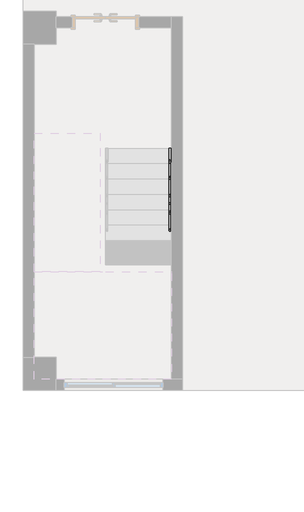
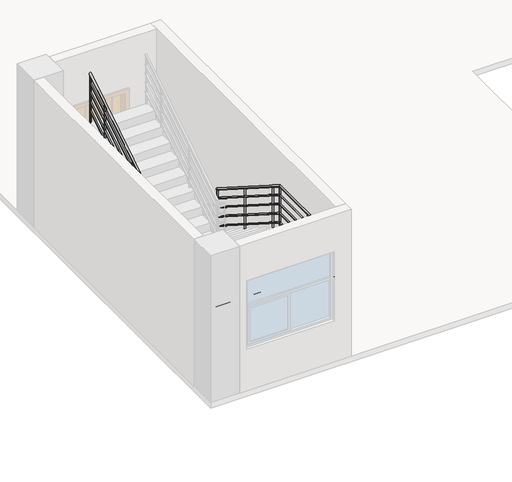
# One storey, part 2 of 4: 1 railing.
"""IFC4 building model written with IfcOpenShell, lengths in millimetres."""

from ifc_helpers import new_model, si_unit, point, frame, frame_2d, origin, place, context, project, spatial, circle_curve, ellipse_curve, trimmed, segment, composite_curve, outline, extrude, element, save
from ifc_brep_helpers import plane_surface, cylinder_surface, advanced_brep

model = new_model("IFC4")

# Units and contexts
model_context = context("Model", 3, world=origin())
ifc_project = project(units=[si_unit("LENGTHUNIT", "METRE", prefix="MILLI")], contexts=[model_context])

# Site, building, storey
site = spatial("IfcSite", under=ifc_project)
building = spatial("IfcBuilding", under=site)
storey = spatial("IfcBuildingStorey", under=building, Name="标高 1", Elevation=0.0)

# Railing
placement = place(None, origin())
element("IfcRailing", 1, ObjectType="900mm 圆管", at=placement, inside=storey, context=model_context, shape_type="SolidModel", body=[
    advanced_brep(
    [(-10027.1675258, -4336.6725016, 1054.0870689), (-9987.1675258, -4336.6725016, 1054.0870689), (-10027.1675258, -6582.485368, 2480.0), (-9987.1675258, -6582.485368, 2480.0), (-10027.1675258, -8491.2725016, 2480.0), (-9987.1675258, -8531.2725016, 2480.0), (-12436.3675258, -8491.2725016, 2480.0), (-12476.3675258, -8531.2725016, 2480.0), (-12436.3675258, -6850.8596352, 2480.0), (-12476.3675258, -6850.8596352, 2480.0), (-12436.3675258, -6565.9523389, 2660.8935215), (-12476.3675258, -6565.9523389, 2660.8935215), (-12436.3675258, -4056.6725016, 4254.0870689), (-12476.3675258, -4056.6725016, 4254.0870689)],
    [
        (0, 1, ellipse_curve(frame((-10007.1675258, -4336.6725016, 1054.0870689), z_axis=(0.0, 1.0, 0.0), x_axis=(0.0, 0.0, -1.0)), 23.6907088, 20.0)),
        (1, 0, ellipse_curve(frame((-10007.1675258, -4336.6725016, 1054.0870689), z_axis=(0.0, 1.0, 0.0), x_axis=(0.0, 0.0, -1.0)), 23.6907088, 20.0)),
        (0, 2),
        (2, 3, ellipse_curve(frame((-10007.1675258, -6582.485368, 2480.0), z_axis=(0.0, 0.9602637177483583, -0.2790942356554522), x_axis=(0.0, -0.27909423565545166, -0.9602637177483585)), 20.8276119, 20.0)),
        (3, 1),
        (3, 2, ellipse_curve(frame((-10007.1675258, -6582.485368, 2480.0), z_axis=(0.0, 0.9602637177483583, -0.2790942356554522), x_axis=(0.0, -0.27909423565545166, -0.9602637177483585)), 20.8276119, 20.0)),
        (2, 4),
        (4, 5, ellipse_curve(frame((-10007.1675258, -8511.2725016, 2480.0), z_axis=(0.7071067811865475, 0.7071067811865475, 0.0), x_axis=(-0.7071067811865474, 0.7071067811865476, 0.0)), 28.2842712, 20.0)),
        (5, 3),
        (5, 4, ellipse_curve(frame((-10007.1675258, -8511.2725016, 2480.0), z_axis=(0.7071067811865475, 0.7071067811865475, 0.0), x_axis=(-0.7071067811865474, 0.7071067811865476, 0.0)), 28.2842712, 20.0)),
        (4, 6),
        (6, 7, ellipse_curve(frame((-12456.3675258, -8511.2725016, 2480.0), z_axis=(0.7071067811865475, -0.7071067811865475, 0.0), x_axis=(0.7071067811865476, 0.7071067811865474, 0.0)), 28.2842712, 20.0)),
        (7, 5),
        (7, 6, ellipse_curve(frame((-12456.3675258, -8511.2725016, 2480.0), z_axis=(0.7071067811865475, -0.7071067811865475, 0.0), x_axis=(0.7071067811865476, 0.7071067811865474, 0.0)), 28.2842712, 20.0)),
        (6, 8),
        (8, 9, ellipse_curve(frame((-12456.3675258, -6850.8596352, 2480.0), z_axis=(0.0, -0.9602637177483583, -0.2790942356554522), x_axis=(0.0, -0.2790942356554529, 0.9602637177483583)), 20.8276119, 20.0)),
        (9, 7),
        (9, 8, ellipse_curve(frame((-12456.3675258, -6850.8596352, 2480.0), z_axis=(0.0, -0.9602637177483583, -0.2790942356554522), x_axis=(0.0, -0.2790942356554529, 0.9602637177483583)), 20.8276119, 20.0)),
        (8, 10),
        (10, 11, circle_curve(frame((-12456.3675258, -6565.9523389, 2660.8935215), z_axis=(0.0, -0.8442128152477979, -0.536008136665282), x_axis=(-1.0, 0.0, 0.0)), 20.0)),
        (11, 9),
        (11, 10, circle_curve(frame((-12456.3675258, -6565.9523389, 2660.8935215), z_axis=(0.0, -0.8442128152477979, -0.536008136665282), x_axis=(-1.0, 0.0, 0.0)), 20.0)),
        (12, 13, ellipse_curve(frame((-12456.3675258, -4056.6725016, 4254.0870689), z_axis=(0.0, 1.0, 0.0), x_axis=(0.0, 0.0, -1.0)), 23.6907088, 20.0)),
        (13, 12, ellipse_curve(frame((-12456.3675258, -4056.6725016, 4254.0870689), z_axis=(0.0, 1.0, 0.0), x_axis=(0.0, 0.0, -1.0)), 23.6907088, 20.0)),
        (10, 12),
        (13, 11),
    ],
    [
        plane_surface(frame((-10007.1675258, -4336.6725016, 1077.7777778), z_axis=(0.0, 1.0, 0.0), x_axis=(0.0, 0.0, -1.0))),
        cylinder_surface(frame((-10007.1675258, -4347.3926643, 1060.8935215), z_axis=(0.0, 0.8442128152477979, -0.536008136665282), x_axis=(1.0, 0.0, 0.0)), 20.0),
        cylinder_surface(frame((-10007.1675258, -6576.6725016, 2480.0), z_axis=(0.0, 1.0, 0.0), x_axis=(1.0, 0.0, 0.0)), 20.0),
        cylinder_surface(frame((-10007.1675258, -8511.2725016, 2480.0), z_axis=(1.0, 0.0, 0.0), x_axis=(0.0, -1.0, 0.0)), 20.0),
        cylinder_surface(frame((-12456.3675258, -8511.2725016, 2480.0), z_axis=(0.0, -1.0, 0.0), x_axis=(-1.0, 0.0, 0.0)), 20.0),
        cylinder_surface(frame((-12456.3675258, -6845.9523389, 2483.1157437), z_axis=(0.0, -0.8442128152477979, -0.536008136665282), x_axis=(-1.0, 0.0, 0.0)), 20.0),
        plane_surface(frame((-12456.3675258, -4056.6725016, 4277.7777778), z_axis=(0.0, 1.0, 0.0), x_axis=(0.0, 0.0, 1.0))),
        cylinder_surface(frame((-12456.3675258, -6565.9523389, 2660.8935215), z_axis=(0.0, -0.8442128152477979, -0.5360081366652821), x_axis=(-1.0, 0.0, 0.0)), 20.0),
    ],
    [
        (0, [[1, 2]]),
        (1, [[-1, 3, 4, 5]]),
        (1, [[-2, -5, 6, -3]]),
        (2, [[-4, 7, 8, 9]]),
        (2, [[-6, -9, 10, -7]]),
        (3, [[-8, 11, 12, 13]]),
        (3, [[-10, -13, 14, -11]]),
        (4, [[-12, 15, 16, 17]]),
        (4, [[-14, -17, 18, -15]]),
        (5, [[-16, 19, 20, 21]]),
        (5, [[-18, -21, 22, -19]]),
        (6, [[23, 24]]),
        (7, [[-20, 25, -24, 26]]),
        (7, [[-22, -26, -23, -25]]),
    ],
),
    advanced_brep(
    [(-10022.1675258, -4336.6725016, 860.0097462), (-9992.1675258, -4336.6725016, 860.0097462), (-10022.1675258, -6576.6725016, 2282.2319684), (-9992.1675258, -6576.6725016, 2282.2319684)],
    [
        (0, 1, ellipse_curve(frame((-10007.1675258, -4336.6725016, 860.0097462), z_axis=(0.0, 1.0, 0.0), x_axis=(0.0, 0.0, -1.0)), 17.7680316, 15.0)),
        (1, 0, ellipse_curve(frame((-10007.1675258, -4336.6725016, 860.0097462), z_axis=(0.0, 1.0, 0.0), x_axis=(0.0, 0.0, -1.0)), 17.7680316, 15.0)),
        (2, 3, ellipse_curve(frame((-10007.1675258, -6576.6725016, 2282.2319684), z_axis=(0.0, -1.0, 0.0), x_axis=(0.0, 0.0, -1.0)), 17.7680316, 15.0)),
        (3, 2, ellipse_curve(frame((-10007.1675258, -6576.6725016, 2282.2319684), z_axis=(0.0, -1.0, 0.0), x_axis=(0.0, 0.0, -1.0)), 17.7680316, 15.0)),
        (0, 2),
        (3, 1),
    ],
    [
        plane_surface(frame((-10007.1675258, -4336.6725016, 877.7777778), z_axis=(0.0, 1.0, 0.0), x_axis=(0.0, 0.0, -1.0))),
        plane_surface(frame((-10007.1675258, -6576.6725016, 2300.0), z_axis=(0.0, -1.0, 0.0), x_axis=(0.0, 0.0, -1.0))),
        cylinder_surface(frame((-10007.1675258, -4344.7126237, 865.1145855), z_axis=(0.0, 0.8442128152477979, -0.536008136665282), x_axis=(1.0, 0.0, 0.0)), 15.0),
    ],
    [
        (0, [[1, 2]]),
        (1, [[3, 4]]),
        (2, [[-1, 5, -4, 6]]),
        (2, [[-2, -6, -3, -5]]),
    ],
),
    advanced_brep(
    [(-10022.1675258, -6576.6725016, 2285.0), (-9992.1675258, -6576.6725016, 2285.0), (-10022.1675258, -8496.2725016, 2285.0), (-9992.1675258, -8496.2725016, 2285.0)],
    [
        (0, 1, circle_curve(frame((-10007.1675258, -6576.6725016, 2285.0), z_axis=(0.0, 1.0, 0.0), x_axis=(1.0, 0.0, 0.0)), 15.0)),
        (1, 0, circle_curve(frame((-10007.1675258, -6576.6725016, 2285.0), z_axis=(0.0, 1.0, 0.0), x_axis=(1.0, 0.0, 0.0)), 15.0)),
        (2, 3, circle_curve(frame((-10007.1675258, -8496.2725016, 2285.0), z_axis=(0.0, -1.0, 0.0), x_axis=(1.0, 0.0, 0.0)), 15.0)),
        (3, 2, circle_curve(frame((-10007.1675258, -8496.2725016, 2285.0), z_axis=(0.0, -1.0, 0.0), x_axis=(1.0, 0.0, 0.0)), 15.0)),
        (0, 2),
        (3, 1),
    ],
    [
        plane_surface(frame((-10007.1675258, -6576.6725016, 2300.0), z_axis=(0.0, 1.0, 0.0), x_axis=(0.0, 0.0, -1.0))),
        plane_surface(frame((-10007.1675258, -8496.2725016, 2300.0), z_axis=(0.0, -1.0, 0.0), x_axis=(0.0, 0.0, -1.0))),
        cylinder_surface(frame((-10007.1675258, -6576.6725016, 2285.0), z_axis=(0.0, 1.0, 0.0), x_axis=(1.0, 0.0, 0.0)), 15.0),
    ],
    [
        (0, [[1, 2]]),
        (1, [[3, 4]]),
        (2, [[-1, 5, -4, 6]]),
        (2, [[-2, -6, -3, -5]]),
    ],
),
    advanced_brep(
    [(-9992.1675258, -8496.2725016, 2285.0), (-9992.1675258, -8526.2725016, 2285.0), (-12441.3675258, -8496.2725016, 2285.0), (-12441.3675258, -8526.2725016, 2285.0)],
    [
        (0, 1, circle_curve(frame((-9992.1675258, -8511.2725016, 2285.0), z_axis=(1.0, 0.0, 0.0), x_axis=(0.0, -1.0, 0.0)), 15.0)),
        (1, 0, circle_curve(frame((-9992.1675258, -8511.2725016, 2285.0), z_axis=(1.0, 0.0, 0.0), x_axis=(0.0, -1.0, 0.0)), 15.0)),
        (2, 3, circle_curve(frame((-12441.3675258, -8511.2725016, 2285.0), z_axis=(-1.0, 0.0, 0.0), x_axis=(0.0, -1.0, 0.0)), 15.0)),
        (3, 2, circle_curve(frame((-12441.3675258, -8511.2725016, 2285.0), z_axis=(-1.0, 0.0, 0.0), x_axis=(0.0, -1.0, 0.0)), 15.0)),
        (0, 2),
        (3, 1),
    ],
    [
        plane_surface(frame((-9992.1675258, -8511.2725016, 2300.0), z_axis=(1.0, 0.0, 0.0), x_axis=(0.0, -1.0, 0.0))),
        plane_surface(frame((-12441.3675258, -8511.2725016, 2300.0), z_axis=(-1.0, 0.0, 0.0), x_axis=(0.0, -1.0, 0.0))),
        cylinder_surface(frame((-9992.1675258, -8511.2725016, 2285.0), z_axis=(1.0, 0.0, 0.0), x_axis=(0.0, -1.0, 0.0)), 15.0),
    ],
    [
        (0, [[1, 2]]),
        (1, [[3, 4]]),
        (2, [[-1, 5, -4, 6]]),
        (2, [[-2, -6, -3, -5]]),
    ],
),
    advanced_brep(
    [(-12441.3675258, -8526.2725016, 2285.0), (-12471.3675258, -8526.2725016, 2285.0), (-12441.3675258, -6852.3128518, 2285.0), (-12471.3675258, -6852.3128518, 2285.0), (-12441.3675258, -6576.6725016, 2460.0097462), (-12471.3675258, -6576.6725016, 2460.0097462)],
    [
        (0, 1, circle_curve(frame((-12456.3675258, -8526.2725016, 2285.0), z_axis=(0.0, -1.0, 0.0), x_axis=(-1.0, 0.0, 0.0)), 15.0)),
        (1, 0, circle_curve(frame((-12456.3675258, -8526.2725016, 2285.0), z_axis=(0.0, -1.0, 0.0), x_axis=(-1.0, 0.0, 0.0)), 15.0)),
        (0, 2),
        (2, 3, ellipse_curve(frame((-12456.3675258, -6852.3128518, 2285.0), z_axis=(0.0, -0.9602637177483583, -0.2790942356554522), x_axis=(0.0, -0.2790942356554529, 0.9602637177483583)), 15.6207089, 15.0)),
        (3, 1),
        (3, 2, ellipse_curve(frame((-12456.3675258, -6852.3128518, 2285.0), z_axis=(0.0, -0.9602637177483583, -0.2790942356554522), x_axis=(0.0, -0.2790942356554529, 0.9602637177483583)), 15.6207089, 15.0)),
        (4, 5, ellipse_curve(frame((-12456.3675258, -6576.6725016, 2460.0097462), z_axis=(0.0, 1.0, 0.0), x_axis=(0.0, 0.0, -1.0)), 17.7680316, 15.0)),
        (5, 4, ellipse_curve(frame((-12456.3675258, -6576.6725016, 2460.0097462), z_axis=(0.0, 1.0, 0.0), x_axis=(0.0, 0.0, -1.0)), 17.7680316, 15.0)),
        (2, 4),
        (5, 3),
    ],
    [
        plane_surface(frame((-12456.3675258, -8526.2725016, 2300.0), z_axis=(0.0, -1.0, 0.0), x_axis=(0.0, 0.0, 1.0))),
        cylinder_surface(frame((-12456.3675258, -8526.2725016, 2285.0), z_axis=(0.0, -1.0, 0.0), x_axis=(-1.0, 0.0, 0.0)), 15.0),
        plane_surface(frame((-12456.3675258, -6576.6725016, 2477.7777778), z_axis=(0.0, 1.0, 0.0), x_axis=(0.0, 0.0, 1.0))),
        cylinder_surface(frame((-12456.3675258, -6848.6323796, 2287.3368078), z_axis=(0.0, -0.8442128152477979, -0.536008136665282), x_axis=(-1.0, 0.0, 0.0)), 15.0),
    ],
    [
        (0, [[1, 2]]),
        (1, [[-1, 3, 4, 5]]),
        (1, [[-2, -5, 6, -3]]),
        (2, [[7, 8]]),
        (3, [[-4, 9, -8, 10]]),
        (3, [[-6, -10, -7, -9]]),
    ],
),
    advanced_brep(
    [(-12441.3675258, -6576.6725016, 2460.0097462), (-12471.3675258, -6576.6725016, 2460.0097462), (-12441.3675258, -4056.6725016, 4060.0097462), (-12471.3675258, -4056.6725016, 4060.0097462)],
    [
        (0, 1, ellipse_curve(frame((-12456.3675258, -6576.6725016, 2460.0097462), z_axis=(0.0, -1.0, 0.0), x_axis=(0.0, 0.0, -1.0)), 17.7680316, 15.0)),
        (1, 0, ellipse_curve(frame((-12456.3675258, -6576.6725016, 2460.0097462), z_axis=(0.0, -1.0, 0.0), x_axis=(0.0, 0.0, -1.0)), 17.7680316, 15.0)),
        (2, 3, ellipse_curve(frame((-12456.3675258, -4056.6725016, 4060.0097462), z_axis=(0.0, 1.0, 0.0), x_axis=(0.0, 0.0, -1.0)), 17.7680316, 15.0)),
        (3, 2, ellipse_curve(frame((-12456.3675258, -4056.6725016, 4060.0097462), z_axis=(0.0, 1.0, 0.0), x_axis=(0.0, 0.0, -1.0)), 17.7680316, 15.0)),
        (0, 2),
        (3, 1),
    ],
    [
        plane_surface(frame((-12456.3675258, -6576.6725016, 2477.7777778), z_axis=(0.0, -1.0, 0.0), x_axis=(0.0, 0.0, 1.0))),
        plane_surface(frame((-12456.3675258, -4056.6725016, 4077.7777778), z_axis=(0.0, 1.0, 0.0), x_axis=(0.0, 0.0, 1.0))),
        cylinder_surface(frame((-12456.3675258, -6568.6323796, 2465.1145855), z_axis=(0.0, -0.8442128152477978, -0.536008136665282), x_axis=(-1.0, 0.0, 0.0)), 15.0),
    ],
    [
        (0, [[1, 2]]),
        (1, [[3, 4]]),
        (2, [[-1, 5, -4, 6]]),
        (2, [[-2, -6, -3, -5]]),
    ],
),
    advanced_brep(
    [(-10022.1675258, -4336.6725016, 660.0097462), (-9992.1675258, -4336.6725016, 660.0097462), (-10022.1675258, -6576.6725016, 2082.2319684), (-9992.1675258, -6576.6725016, 2082.2319684)],
    [
        (0, 1, ellipse_curve(frame((-10007.1675258, -4336.6725016, 660.0097462), z_axis=(0.0, 1.0, 0.0), x_axis=(0.0, 0.0, -1.0)), 17.7680316, 15.0)),
        (1, 0, ellipse_curve(frame((-10007.1675258, -4336.6725016, 660.0097462), z_axis=(0.0, 1.0, 0.0), x_axis=(0.0, 0.0, -1.0)), 17.7680316, 15.0)),
        (2, 3, ellipse_curve(frame((-10007.1675258, -6576.6725016, 2082.2319684), z_axis=(0.0, -1.0, 0.0), x_axis=(0.0, 0.0, -1.0)), 17.7680316, 15.0)),
        (3, 2, ellipse_curve(frame((-10007.1675258, -6576.6725016, 2082.2319684), z_axis=(0.0, -1.0, 0.0), x_axis=(0.0, 0.0, -1.0)), 17.7680316, 15.0)),
        (0, 2),
        (3, 1),
    ],
    [
        plane_surface(frame((-10007.1675258, -4336.6725016, 677.7777778), z_axis=(0.0, 1.0, 0.0), x_axis=(0.0, 0.0, -1.0))),
        plane_surface(frame((-10007.1675258, -6576.6725016, 2100.0), z_axis=(0.0, -1.0, 0.0), x_axis=(0.0, 0.0, -1.0))),
        cylinder_surface(frame((-10007.1675258, -4344.7126237, 665.1145855), z_axis=(0.0, 0.8442128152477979, -0.536008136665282), x_axis=(1.0, 0.0, 0.0)), 15.0),
    ],
    [
        (0, [[1, 2]]),
        (1, [[3, 4]]),
        (2, [[-1, 5, -4, 6]]),
        (2, [[-2, -6, -3, -5]]),
    ],
),
    advanced_brep(
    [(-10022.1675258, -6576.6725016, 2085.0), (-9992.1675258, -6576.6725016, 2085.0), (-10022.1675258, -8496.2725016, 2085.0), (-9992.1675258, -8496.2725016, 2085.0)],
    [
        (0, 1, circle_curve(frame((-10007.1675258, -6576.6725016, 2085.0), z_axis=(0.0, 1.0, 0.0), x_axis=(1.0, 0.0, 0.0)), 15.0)),
        (1, 0, circle_curve(frame((-10007.1675258, -6576.6725016, 2085.0), z_axis=(0.0, 1.0, 0.0), x_axis=(1.0, 0.0, 0.0)), 15.0)),
        (2, 3, circle_curve(frame((-10007.1675258, -8496.2725016, 2085.0), z_axis=(0.0, -1.0, 0.0), x_axis=(1.0, 0.0, 0.0)), 15.0)),
        (3, 2, circle_curve(frame((-10007.1675258, -8496.2725016, 2085.0), z_axis=(0.0, -1.0, 0.0), x_axis=(1.0, 0.0, 0.0)), 15.0)),
        (0, 2),
        (3, 1),
    ],
    [
        plane_surface(frame((-10007.1675258, -6576.6725016, 2100.0), z_axis=(0.0, 1.0, 0.0), x_axis=(0.0, 0.0, -1.0))),
        plane_surface(frame((-10007.1675258, -8496.2725016, 2100.0), z_axis=(0.0, -1.0, 0.0), x_axis=(0.0, 0.0, -1.0))),
        cylinder_surface(frame((-10007.1675258, -6576.6725016, 2085.0), z_axis=(0.0, 1.0, 0.0), x_axis=(1.0, 0.0, 0.0)), 15.0),
    ],
    [
        (0, [[1, 2]]),
        (1, [[3, 4]]),
        (2, [[-1, 5, -4, 6]]),
        (2, [[-2, -6, -3, -5]]),
    ],
),
    advanced_brep(
    [(-9992.1675258, -8496.2725016, 2085.0), (-9992.1675258, -8526.2725016, 2085.0), (-12441.3675258, -8496.2725016, 2085.0), (-12441.3675258, -8526.2725016, 2085.0)],
    [
        (0, 1, circle_curve(frame((-9992.1675258, -8511.2725016, 2085.0), z_axis=(1.0, 0.0, 0.0), x_axis=(0.0, -1.0, 0.0)), 15.0)),
        (1, 0, circle_curve(frame((-9992.1675258, -8511.2725016, 2085.0), z_axis=(1.0, 0.0, 0.0), x_axis=(0.0, -1.0, 0.0)), 15.0)),
        (2, 3, circle_curve(frame((-12441.3675258, -8511.2725016, 2085.0), z_axis=(-1.0, 0.0, 0.0), x_axis=(0.0, -1.0, 0.0)), 15.0)),
        (3, 2, circle_curve(frame((-12441.3675258, -8511.2725016, 2085.0), z_axis=(-1.0, 0.0, 0.0), x_axis=(0.0, -1.0, 0.0)), 15.0)),
        (0, 2),
        (3, 1),
    ],
    [
        plane_surface(frame((-9992.1675258, -8511.2725016, 2100.0), z_axis=(1.0, 0.0, 0.0), x_axis=(0.0, -1.0, 0.0))),
        plane_surface(frame((-12441.3675258, -8511.2725016, 2100.0), z_axis=(-1.0, 0.0, 0.0), x_axis=(0.0, -1.0, 0.0))),
        cylinder_surface(frame((-9992.1675258, -8511.2725016, 2085.0), z_axis=(1.0, 0.0, 0.0), x_axis=(0.0, -1.0, 0.0)), 15.0),
    ],
    [
        (0, [[1, 2]]),
        (1, [[3, 4]]),
        (2, [[-1, 5, -4, 6]]),
        (2, [[-2, -6, -3, -5]]),
    ],
),
    advanced_brep(
    [(-12441.3675258, -8526.2725016, 2085.0), (-12471.3675258, -8526.2725016, 2085.0), (-12441.3675258, -6852.3128518, 2085.0), (-12471.3675258, -6852.3128518, 2085.0), (-12441.3675258, -6576.6725016, 2260.0097462), (-12471.3675258, -6576.6725016, 2260.0097462)],
    [
        (0, 1, circle_curve(frame((-12456.3675258, -8526.2725016, 2085.0), z_axis=(0.0, -1.0, 0.0), x_axis=(-1.0, 0.0, 0.0)), 15.0)),
        (1, 0, circle_curve(frame((-12456.3675258, -8526.2725016, 2085.0), z_axis=(0.0, -1.0, 0.0), x_axis=(-1.0, 0.0, 0.0)), 15.0)),
        (0, 2),
        (2, 3, ellipse_curve(frame((-12456.3675258, -6852.3128518, 2085.0), z_axis=(0.0, -0.9602637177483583, -0.2790942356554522), x_axis=(0.0, -0.2790942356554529, 0.9602637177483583)), 15.6207089, 15.0)),
        (3, 1),
        (3, 2, ellipse_curve(frame((-12456.3675258, -6852.3128518, 2085.0), z_axis=(0.0, -0.9602637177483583, -0.2790942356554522), x_axis=(0.0, -0.2790942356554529, 0.9602637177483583)), 15.6207089, 15.0)),
        (4, 5, ellipse_curve(frame((-12456.3675258, -6576.6725016, 2260.0097462), z_axis=(0.0, 1.0, 0.0), x_axis=(0.0, 0.0, -1.0)), 17.7680316, 15.0)),
        (5, 4, ellipse_curve(frame((-12456.3675258, -6576.6725016, 2260.0097462), z_axis=(0.0, 1.0, 0.0), x_axis=(0.0, 0.0, -1.0)), 17.7680316, 15.0)),
        (2, 4),
        (5, 3),
    ],
    [
        plane_surface(frame((-12456.3675258, -8526.2725016, 2100.0), z_axis=(0.0, -1.0, 0.0), x_axis=(0.0, 0.0, 1.0))),
        cylinder_surface(frame((-12456.3675258, -8526.2725016, 2085.0), z_axis=(0.0, -1.0, 0.0), x_axis=(-1.0, 0.0, 0.0)), 15.0),
        plane_surface(frame((-12456.3675258, -6576.6725016, 2277.7777778), z_axis=(0.0, 1.0, 0.0), x_axis=(0.0, 0.0, 1.0))),
        cylinder_surface(frame((-12456.3675258, -6848.6323796, 2087.3368078), z_axis=(0.0, -0.8442128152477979, -0.536008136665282), x_axis=(-1.0, 0.0, 0.0)), 15.0),
    ],
    [
        (0, [[1, 2]]),
        (1, [[-1, 3, 4, 5]]),
        (1, [[-2, -5, 6, -3]]),
        (2, [[7, 8]]),
        (3, [[-4, 9, -8, 10]]),
        (3, [[-6, -10, -7, -9]]),
    ],
),
    advanced_brep(
    [(-12441.3675258, -6576.6725016, 2260.0097462), (-12471.3675258, -6576.6725016, 2260.0097462), (-12441.3675258, -4056.6725016, 3860.0097462), (-12471.3675258, -4056.6725016, 3860.0097462)],
    [
        (0, 1, ellipse_curve(frame((-12456.3675258, -6576.6725016, 2260.0097462), z_axis=(0.0, -1.0, 0.0), x_axis=(0.0, 0.0, -1.0)), 17.7680316, 15.0)),
        (1, 0, ellipse_curve(frame((-12456.3675258, -6576.6725016, 2260.0097462), z_axis=(0.0, -1.0, 0.0), x_axis=(0.0, 0.0, -1.0)), 17.7680316, 15.0)),
        (2, 3, ellipse_curve(frame((-12456.3675258, -4056.6725016, 3860.0097462), z_axis=(0.0, 1.0, 0.0), x_axis=(0.0, 0.0, -1.0)), 17.7680316, 15.0)),
        (3, 2, ellipse_curve(frame((-12456.3675258, -4056.6725016, 3860.0097462), z_axis=(0.0, 1.0, 0.0), x_axis=(0.0, 0.0, -1.0)), 17.7680316, 15.0)),
        (0, 2),
        (3, 1),
    ],
    [
        plane_surface(frame((-12456.3675258, -6576.6725016, 2277.7777778), z_axis=(0.0, -1.0, 0.0), x_axis=(0.0, 0.0, 1.0))),
        plane_surface(frame((-12456.3675258, -4056.6725016, 3877.7777778), z_axis=(0.0, 1.0, 0.0), x_axis=(0.0, 0.0, 1.0))),
        cylinder_surface(frame((-12456.3675258, -6568.6323796, 2265.1145855), z_axis=(0.0, -0.8442128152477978, -0.536008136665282), x_axis=(-1.0, 0.0, 0.0)), 15.0),
    ],
    [
        (0, [[1, 2]]),
        (1, [[3, 4]]),
        (2, [[-1, 5, -4, 6]]),
        (2, [[-2, -6, -3, -5]]),
    ],
),
    advanced_brep(
    [(-10022.1675258, -4336.6725016, 460.0097462), (-9992.1675258, -4336.6725016, 460.0097462), (-10022.1675258, -6576.6725016, 1882.2319684), (-9992.1675258, -6576.6725016, 1882.2319684)],
    [
        (0, 1, ellipse_curve(frame((-10007.1675258, -4336.6725016, 460.0097462), z_axis=(0.0, 1.0, 0.0), x_axis=(0.0, 0.0, -1.0)), 17.7680316, 15.0)),
        (1, 0, ellipse_curve(frame((-10007.1675258, -4336.6725016, 460.0097462), z_axis=(0.0, 1.0, 0.0), x_axis=(0.0, 0.0, -1.0)), 17.7680316, 15.0)),
        (2, 3, ellipse_curve(frame((-10007.1675258, -6576.6725016, 1882.2319684), z_axis=(0.0, -1.0, 0.0), x_axis=(0.0, 0.0, -1.0)), 17.7680316, 15.0)),
        (3, 2, ellipse_curve(frame((-10007.1675258, -6576.6725016, 1882.2319684), z_axis=(0.0, -1.0, 0.0), x_axis=(0.0, 0.0, -1.0)), 17.7680316, 15.0)),
        (0, 2),
        (3, 1),
    ],
    [
        plane_surface(frame((-10007.1675258, -4336.6725016, 477.7777778), z_axis=(0.0, 1.0, 0.0), x_axis=(0.0, 0.0, -1.0))),
        plane_surface(frame((-10007.1675258, -6576.6725016, 1900.0), z_axis=(0.0, -1.0, 0.0), x_axis=(0.0, 0.0, -1.0))),
        cylinder_surface(frame((-10007.1675258, -4344.7126237, 465.1145855), z_axis=(0.0, 0.8442128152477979, -0.536008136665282), x_axis=(1.0, 0.0, 0.0)), 15.0),
    ],
    [
        (0, [[1, 2]]),
        (1, [[3, 4]]),
        (2, [[-1, 5, -4, 6]]),
        (2, [[-2, -6, -3, -5]]),
    ],
),
    advanced_brep(
    [(-10022.1675258, -6576.6725016, 1885.0), (-9992.1675258, -6576.6725016, 1885.0), (-10022.1675258, -8496.2725016, 1885.0), (-9992.1675258, -8496.2725016, 1885.0)],
    [
        (0, 1, circle_curve(frame((-10007.1675258, -6576.6725016, 1885.0), z_axis=(0.0, 1.0, 0.0), x_axis=(1.0, 0.0, 0.0)), 15.0)),
        (1, 0, circle_curve(frame((-10007.1675258, -6576.6725016, 1885.0), z_axis=(0.0, 1.0, 0.0), x_axis=(1.0, 0.0, 0.0)), 15.0)),
        (2, 3, circle_curve(frame((-10007.1675258, -8496.2725016, 1885.0), z_axis=(0.0, -1.0, 0.0), x_axis=(1.0, 0.0, 0.0)), 15.0)),
        (3, 2, circle_curve(frame((-10007.1675258, -8496.2725016, 1885.0), z_axis=(0.0, -1.0, 0.0), x_axis=(1.0, 0.0, 0.0)), 15.0)),
        (0, 2),
        (3, 1),
    ],
    [
        plane_surface(frame((-10007.1675258, -6576.6725016, 1900.0), z_axis=(0.0, 1.0, 0.0), x_axis=(0.0, 0.0, -1.0))),
        plane_surface(frame((-10007.1675258, -8496.2725016, 1900.0), z_axis=(0.0, -1.0, 0.0), x_axis=(0.0, 0.0, -1.0))),
        cylinder_surface(frame((-10007.1675258, -6576.6725016, 1885.0), z_axis=(0.0, 1.0, 0.0), x_axis=(1.0, 0.0, 0.0)), 15.0),
    ],
    [
        (0, [[1, 2]]),
        (1, [[3, 4]]),
        (2, [[-1, 5, -4, 6]]),
        (2, [[-2, -6, -3, -5]]),
    ],
),
    advanced_brep(
    [(-9992.1675258, -8496.2725016, 1885.0), (-9992.1675258, -8526.2725016, 1885.0), (-12441.3675258, -8496.2725016, 1885.0), (-12441.3675258, -8526.2725016, 1885.0)],
    [
        (0, 1, circle_curve(frame((-9992.1675258, -8511.2725016, 1885.0), z_axis=(1.0, 0.0, 0.0), x_axis=(0.0, -1.0, 0.0)), 15.0)),
        (1, 0, circle_curve(frame((-9992.1675258, -8511.2725016, 1885.0), z_axis=(1.0, 0.0, 0.0), x_axis=(0.0, -1.0, 0.0)), 15.0)),
        (2, 3, circle_curve(frame((-12441.3675258, -8511.2725016, 1885.0), z_axis=(-1.0, 0.0, 0.0), x_axis=(0.0, -1.0, 0.0)), 15.0)),
        (3, 2, circle_curve(frame((-12441.3675258, -8511.2725016, 1885.0), z_axis=(-1.0, 0.0, 0.0), x_axis=(0.0, -1.0, 0.0)), 15.0)),
        (0, 2),
        (3, 1),
    ],
    [
        plane_surface(frame((-9992.1675258, -8511.2725016, 1900.0), z_axis=(1.0, 0.0, 0.0), x_axis=(0.0, -1.0, 0.0))),
        plane_surface(frame((-12441.3675258, -8511.2725016, 1900.0), z_axis=(-1.0, 0.0, 0.0), x_axis=(0.0, -1.0, 0.0))),
        cylinder_surface(frame((-9992.1675258, -8511.2725016, 1885.0), z_axis=(1.0, 0.0, 0.0), x_axis=(0.0, -1.0, 0.0)), 15.0),
    ],
    [
        (0, [[1, 2]]),
        (1, [[3, 4]]),
        (2, [[-1, 5, -4, 6]]),
        (2, [[-2, -6, -3, -5]]),
    ],
),
    advanced_brep(
    [(-12441.3675258, -8526.2725016, 1885.0), (-12471.3675258, -8526.2725016, 1885.0), (-12441.3675258, -6852.3128518, 1885.0), (-12471.3675258, -6852.3128518, 1885.0), (-12441.3675258, -6576.6725016, 2060.0097462), (-12471.3675258, -6576.6725016, 2060.0097462)],
    [
        (0, 1, circle_curve(frame((-12456.3675258, -8526.2725016, 1885.0), z_axis=(0.0, -1.0, 0.0), x_axis=(-1.0, 0.0, 0.0)), 15.0)),
        (1, 0, circle_curve(frame((-12456.3675258, -8526.2725016, 1885.0), z_axis=(0.0, -1.0, 0.0), x_axis=(-1.0, 0.0, 0.0)), 15.0)),
        (0, 2),
        (2, 3, ellipse_curve(frame((-12456.3675258, -6852.3128518, 1885.0), z_axis=(0.0, -0.9602637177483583, -0.2790942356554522), x_axis=(0.0, -0.2790942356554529, 0.9602637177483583)), 15.6207089, 15.0)),
        (3, 1),
        (3, 2, ellipse_curve(frame((-12456.3675258, -6852.3128518, 1885.0), z_axis=(0.0, -0.9602637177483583, -0.2790942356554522), x_axis=(0.0, -0.2790942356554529, 0.9602637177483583)), 15.6207089, 15.0)),
        (4, 5, ellipse_curve(frame((-12456.3675258, -6576.6725016, 2060.0097462), z_axis=(0.0, 1.0, 0.0), x_axis=(0.0, 0.0, -1.0)), 17.7680316, 15.0)),
        (5, 4, ellipse_curve(frame((-12456.3675258, -6576.6725016, 2060.0097462), z_axis=(0.0, 1.0, 0.0), x_axis=(0.0, 0.0, -1.0)), 17.7680316, 15.0)),
        (2, 4),
        (5, 3),
    ],
    [
        plane_surface(frame((-12456.3675258, -8526.2725016, 1900.0), z_axis=(0.0, -1.0, 0.0), x_axis=(0.0, 0.0, 1.0))),
        cylinder_surface(frame((-12456.3675258, -8526.2725016, 1885.0), z_axis=(0.0, -1.0, 0.0), x_axis=(-1.0, 0.0, 0.0)), 15.0),
        plane_surface(frame((-12456.3675258, -6576.6725016, 2077.7777778), z_axis=(0.0, 1.0, 0.0), x_axis=(0.0, 0.0, 1.0))),
        cylinder_surface(frame((-12456.3675258, -6848.6323796, 1887.3368078), z_axis=(0.0, -0.8442128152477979, -0.536008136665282), x_axis=(-1.0, 0.0, 0.0)), 15.0),
    ],
    [
        (0, [[1, 2]]),
        (1, [[-1, 3, 4, 5]]),
        (1, [[-2, -5, 6, -3]]),
        (2, [[7, 8]]),
        (3, [[-4, 9, -8, 10]]),
        (3, [[-6, -10, -7, -9]]),
    ],
),
    advanced_brep(
    [(-12441.3675258, -6576.6725016, 2060.0097462), (-12471.3675258, -6576.6725016, 2060.0097462), (-12441.3675258, -4056.6725016, 3660.0097462), (-12471.3675258, -4056.6725016, 3660.0097462)],
    [
        (0, 1, ellipse_curve(frame((-12456.3675258, -6576.6725016, 2060.0097462), z_axis=(0.0, -1.0, 0.0), x_axis=(0.0, 0.0, -1.0)), 17.7680316, 15.0)),
        (1, 0, ellipse_curve(frame((-12456.3675258, -6576.6725016, 2060.0097462), z_axis=(0.0, -1.0, 0.0), x_axis=(0.0, 0.0, -1.0)), 17.7680316, 15.0)),
        (2, 3, ellipse_curve(frame((-12456.3675258, -4056.6725016, 3660.0097462), z_axis=(0.0, 1.0, 0.0), x_axis=(0.0, 0.0, -1.0)), 17.7680316, 15.0)),
        (3, 2, ellipse_curve(frame((-12456.3675258, -4056.6725016, 3660.0097462), z_axis=(0.0, 1.0, 0.0), x_axis=(0.0, 0.0, -1.0)), 17.7680316, 15.0)),
        (0, 2),
        (3, 1),
    ],
    [
        plane_surface(frame((-12456.3675258, -6576.6725016, 2077.7777778), z_axis=(0.0, -1.0, 0.0), x_axis=(0.0, 0.0, 1.0))),
        plane_surface(frame((-12456.3675258, -4056.6725016, 3677.7777778), z_axis=(0.0, 1.0, 0.0), x_axis=(0.0, 0.0, 1.0))),
        cylinder_surface(frame((-12456.3675258, -6568.6323796, 2065.1145855), z_axis=(0.0, -0.8442128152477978, -0.536008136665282), x_axis=(-1.0, 0.0, 0.0)), 15.0),
    ],
    [
        (0, [[1, 2]]),
        (1, [[3, 4]]),
        (2, [[-1, 5, -4, 6]]),
        (2, [[-2, -6, -3, -5]]),
    ],
),
    advanced_brep(
    [(-10022.1675258, -4336.6725016, 260.0097462), (-9992.1675258, -4336.6725016, 260.0097462), (-10022.1675258, -6576.6725016, 1682.2319684), (-9992.1675258, -6576.6725016, 1682.2319684)],
    [
        (0, 1, ellipse_curve(frame((-10007.1675258, -4336.6725016, 260.0097462), z_axis=(0.0, 1.0, 0.0), x_axis=(0.0, 0.0, -1.0)), 17.7680316, 15.0)),
        (1, 0, ellipse_curve(frame((-10007.1675258, -4336.6725016, 260.0097462), z_axis=(0.0, 1.0, 0.0), x_axis=(0.0, 0.0, -1.0)), 17.7680316, 15.0)),
        (2, 3, ellipse_curve(frame((-10007.1675258, -6576.6725016, 1682.2319684), z_axis=(0.0, -1.0, 0.0), x_axis=(0.0, 0.0, -1.0)), 17.7680316, 15.0)),
        (3, 2, ellipse_curve(frame((-10007.1675258, -6576.6725016, 1682.2319684), z_axis=(0.0, -1.0, 0.0), x_axis=(0.0, 0.0, -1.0)), 17.7680316, 15.0)),
        (0, 2),
        (3, 1),
    ],
    [
        plane_surface(frame((-10007.1675258, -4336.6725016, 277.7777778), z_axis=(0.0, 1.0, 0.0), x_axis=(0.0, 0.0, -1.0))),
        plane_surface(frame((-10007.1675258, -6576.6725016, 1700.0), z_axis=(0.0, -1.0, 0.0), x_axis=(0.0, 0.0, -1.0))),
        cylinder_surface(frame((-10007.1675258, -4344.7126237, 265.1145855), z_axis=(0.0, 0.8442128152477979, -0.536008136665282), x_axis=(1.0, 0.0, 0.0)), 15.0),
    ],
    [
        (0, [[1, 2]]),
        (1, [[3, 4]]),
        (2, [[-1, 5, -4, 6]]),
        (2, [[-2, -6, -3, -5]]),
    ],
),
    advanced_brep(
    [(-10022.1675258, -6576.6725016, 1685.0), (-9992.1675258, -6576.6725016, 1685.0), (-10022.1675258, -8496.2725016, 1685.0), (-9992.1675258, -8496.2725016, 1685.0)],
    [
        (0, 1, circle_curve(frame((-10007.1675258, -6576.6725016, 1685.0), z_axis=(0.0, 1.0, 0.0), x_axis=(1.0, 0.0, 0.0)), 15.0)),
        (1, 0, circle_curve(frame((-10007.1675258, -6576.6725016, 1685.0), z_axis=(0.0, 1.0, 0.0), x_axis=(1.0, 0.0, 0.0)), 15.0)),
        (2, 3, circle_curve(frame((-10007.1675258, -8496.2725016, 1685.0), z_axis=(0.0, -1.0, 0.0), x_axis=(1.0, 0.0, 0.0)), 15.0)),
        (3, 2, circle_curve(frame((-10007.1675258, -8496.2725016, 1685.0), z_axis=(0.0, -1.0, 0.0), x_axis=(1.0, 0.0, 0.0)), 15.0)),
        (0, 2),
        (3, 1),
    ],
    [
        plane_surface(frame((-10007.1675258, -6576.6725016, 1700.0), z_axis=(0.0, 1.0, 0.0), x_axis=(0.0, 0.0, -1.0))),
        plane_surface(frame((-10007.1675258, -8496.2725016, 1700.0), z_axis=(0.0, -1.0, 0.0), x_axis=(0.0, 0.0, -1.0))),
        cylinder_surface(frame((-10007.1675258, -6576.6725016, 1685.0), z_axis=(0.0, 1.0, 0.0), x_axis=(1.0, 0.0, 0.0)), 15.0),
    ],
    [
        (0, [[1, 2]]),
        (1, [[3, 4]]),
        (2, [[-1, 5, -4, 6]]),
        (2, [[-2, -6, -3, -5]]),
    ],
),
    advanced_brep(
    [(-9992.1675258, -8496.2725016, 1685.0), (-9992.1675258, -8526.2725016, 1685.0), (-12441.3675258, -8496.2725016, 1685.0), (-12441.3675258, -8526.2725016, 1685.0)],
    [
        (0, 1, circle_curve(frame((-9992.1675258, -8511.2725016, 1685.0), z_axis=(1.0, 0.0, 0.0), x_axis=(0.0, -1.0, 0.0)), 15.0)),
        (1, 0, circle_curve(frame((-9992.1675258, -8511.2725016, 1685.0), z_axis=(1.0, 0.0, 0.0), x_axis=(0.0, -1.0, 0.0)), 15.0)),
        (2, 3, circle_curve(frame((-12441.3675258, -8511.2725016, 1685.0), z_axis=(-1.0, 0.0, 0.0), x_axis=(0.0, -1.0, 0.0)), 15.0)),
        (3, 2, circle_curve(frame((-12441.3675258, -8511.2725016, 1685.0), z_axis=(-1.0, 0.0, 0.0), x_axis=(0.0, -1.0, 0.0)), 15.0)),
        (0, 2),
        (3, 1),
    ],
    [
        plane_surface(frame((-9992.1675258, -8511.2725016, 1700.0), z_axis=(1.0, 0.0, 0.0), x_axis=(0.0, -1.0, 0.0))),
        plane_surface(frame((-12441.3675258, -8511.2725016, 1700.0), z_axis=(-1.0, 0.0, 0.0), x_axis=(0.0, -1.0, 0.0))),
        cylinder_surface(frame((-9992.1675258, -8511.2725016, 1685.0), z_axis=(1.0, 0.0, 0.0), x_axis=(0.0, -1.0, 0.0)), 15.0),
    ],
    [
        (0, [[1, 2]]),
        (1, [[3, 4]]),
        (2, [[-1, 5, -4, 6]]),
        (2, [[-2, -6, -3, -5]]),
    ],
),
    advanced_brep(
    [(-12441.3675258, -8526.2725016, 1685.0), (-12471.3675258, -8526.2725016, 1685.0), (-12441.3675258, -6852.3128518, 1685.0), (-12471.3675258, -6852.3128518, 1685.0), (-12441.3675258, -6576.6725016, 1860.0097462), (-12471.3675258, -6576.6725016, 1860.0097462)],
    [
        (0, 1, circle_curve(frame((-12456.3675258, -8526.2725016, 1685.0), z_axis=(0.0, -1.0, 0.0), x_axis=(-1.0, 0.0, 0.0)), 15.0)),
        (1, 0, circle_curve(frame((-12456.3675258, -8526.2725016, 1685.0), z_axis=(0.0, -1.0, 0.0), x_axis=(-1.0, 0.0, 0.0)), 15.0)),
        (0, 2),
        (2, 3, ellipse_curve(frame((-12456.3675258, -6852.3128518, 1685.0), z_axis=(0.0, -0.9602637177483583, -0.2790942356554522), x_axis=(0.0, -0.2790942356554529, 0.9602637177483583)), 15.6207089, 15.0)),
        (3, 1),
        (3, 2, ellipse_curve(frame((-12456.3675258, -6852.3128518, 1685.0), z_axis=(0.0, -0.9602637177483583, -0.2790942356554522), x_axis=(0.0, -0.2790942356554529, 0.9602637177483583)), 15.6207089, 15.0)),
        (4, 5, ellipse_curve(frame((-12456.3675258, -6576.6725016, 1860.0097462), z_axis=(0.0, 1.0, 0.0), x_axis=(0.0, 0.0, -1.0)), 17.7680316, 15.0)),
        (5, 4, ellipse_curve(frame((-12456.3675258, -6576.6725016, 1860.0097462), z_axis=(0.0, 1.0, 0.0), x_axis=(0.0, 0.0, -1.0)), 17.7680316, 15.0)),
        (2, 4),
        (5, 3),
    ],
    [
        plane_surface(frame((-12456.3675258, -8526.2725016, 1700.0), z_axis=(0.0, -1.0, 0.0), x_axis=(0.0, 0.0, 1.0))),
        cylinder_surface(frame((-12456.3675258, -8526.2725016, 1685.0), z_axis=(0.0, -1.0, 0.0), x_axis=(-1.0, 0.0, 0.0)), 15.0),
        plane_surface(frame((-12456.3675258, -6576.6725016, 1877.7777778), z_axis=(0.0, 1.0, 0.0), x_axis=(0.0, 0.0, 1.0))),
        cylinder_surface(frame((-12456.3675258, -6848.6323796, 1687.3368078), z_axis=(0.0, -0.8442128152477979, -0.536008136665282), x_axis=(-1.0, 0.0, 0.0)), 15.0),
    ],
    [
        (0, [[1, 2]]),
        (1, [[-1, 3, 4, 5]]),
        (1, [[-2, -5, 6, -3]]),
        (2, [[7, 8]]),
        (3, [[-4, 9, -8, 10]]),
        (3, [[-6, -10, -7, -9]]),
    ],
),
    advanced_brep(
    [(-12441.3675258, -6576.6725016, 1860.0097462), (-12471.3675258, -6576.6725016, 1860.0097462), (-12441.3675258, -4056.6725016, 3460.0097462), (-12471.3675258, -4056.6725016, 3460.0097462)],
    [
        (0, 1, ellipse_curve(frame((-12456.3675258, -6576.6725016, 1860.0097462), z_axis=(0.0, -1.0, 0.0), x_axis=(0.0, 0.0, -1.0)), 17.7680316, 15.0)),
        (1, 0, ellipse_curve(frame((-12456.3675258, -6576.6725016, 1860.0097462), z_axis=(0.0, -1.0, 0.0), x_axis=(0.0, 0.0, -1.0)), 17.7680316, 15.0)),
        (2, 3, ellipse_curve(frame((-12456.3675258, -4056.6725016, 3460.0097462), z_axis=(0.0, 1.0, 0.0), x_axis=(0.0, 0.0, -1.0)), 17.7680316, 15.0)),
        (3, 2, ellipse_curve(frame((-12456.3675258, -4056.6725016, 3460.0097462), z_axis=(0.0, 1.0, 0.0), x_axis=(0.0, 0.0, -1.0)), 17.7680316, 15.0)),
        (0, 2),
        (3, 1),
    ],
    [
        plane_surface(frame((-12456.3675258, -6576.6725016, 1877.7777778), z_axis=(0.0, -1.0, 0.0), x_axis=(0.0, 0.0, 1.0))),
        plane_surface(frame((-12456.3675258, -4056.6725016, 3477.7777778), z_axis=(0.0, 1.0, 0.0), x_axis=(0.0, 0.0, 1.0))),
        cylinder_surface(frame((-12456.3675258, -6568.6323796, 1865.1145855), z_axis=(0.0, -0.8442128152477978, -0.536008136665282), x_axis=(-1.0, 0.0, 0.0)), 15.0),
    ],
    [
        (0, [[1, 2]]),
        (1, [[3, 4]]),
        (2, [[-1, 5, -4, 6]]),
        (2, [[-2, -6, -3, -5]]),
    ],
),
    advanced_brep(
    [(-12468.8675258, -4576.6725016, 3900.23763), (-12443.8675258, -4576.6725016, 3900.23763), (-12443.8675258, -4576.6725016, 3022.2222222), (-12468.8675258, -4576.6725016, 3022.2222222)],
    [
        (0, 1, ellipse_curve(frame((-12456.3675258, -4576.6725016, 3900.23763), z_axis=(0.0, 0.5360081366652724, -0.844212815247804), x_axis=(0.0, 0.844212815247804, 0.5360081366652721)), 14.806693, 12.5)),
        (1, 2),
        (2, 3, circle_curve(frame((-12456.3675258, -4576.6725016, 3022.2222222), z_axis=(0.0, 0.0, 1.0), x_axis=(1.0, 0.0, 0.0)), 12.5)),
        (3, 0),
        (3, 2, circle_curve(frame((-12456.3675258, -4576.6725016, 3022.2222222), z_axis=(0.0, 0.0, 1.0), x_axis=(1.0, 0.0, 0.0)), 12.5)),
        (1, 0, ellipse_curve(frame((-12456.3675258, -4576.6725016, 3900.23763), z_axis=(0.0, 0.5360081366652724, -0.844212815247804), x_axis=(0.0, 0.844212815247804, 0.5360081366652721)), 14.806693, 12.5)),
    ],
    [
        cylinder_surface(frame((-12456.3675258, -4576.6725016, 2922.2222222), z_axis=(0.0, 0.0, 1.0), x_axis=(1.0, 0.0, 0.0)), 12.5),
        plane_surface(frame((-12431.3675258, -4551.6725016, 3916.1106458), z_axis=(0.0, -0.5360081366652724, 0.844212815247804), x_axis=(-1.0, 0.0, 0.0))),
        plane_surface(frame((-12431.3675258, -4601.6725016, 3022.2222222), z_axis=(0.0, 0.0, -1.0), x_axis=(-1.0, 0.0, 0.0))),
    ],
    [
        (0, [[1, 2, 3, 4]]),
        (0, [[5, -2, 6, -4]]),
        (1, [[-6, -1]]),
        (2, [[-5, -3]]),
    ],
),
    advanced_brep(
    [(-12468.8675258, -5576.6725016, 3265.316995), (-12443.8675258, -5576.6725016, 3265.316995), (-12443.8675258, -5576.6725016, 2311.1111111), (-12468.8675258, -5576.6725016, 2311.1111111)],
    [
        (0, 1, ellipse_curve(frame((-12456.3675258, -5576.6725016, 3265.316995), z_axis=(0.0, 0.5360081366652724, -0.844212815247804), x_axis=(0.0, 0.844212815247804, 0.5360081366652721)), 14.806693, 12.5)),
        (1, 2),
        (2, 3, circle_curve(frame((-12456.3675258, -5576.6725016, 2311.1111111), z_axis=(0.0, 0.0, 1.0), x_axis=(1.0, 0.0, 0.0)), 12.5)),
        (3, 0),
        (3, 2, circle_curve(frame((-12456.3675258, -5576.6725016, 2311.1111111), z_axis=(0.0, 0.0, 1.0), x_axis=(1.0, 0.0, 0.0)), 12.5)),
        (1, 0, ellipse_curve(frame((-12456.3675258, -5576.6725016, 3265.316995), z_axis=(0.0, 0.5360081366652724, -0.844212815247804), x_axis=(0.0, 0.844212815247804, 0.5360081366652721)), 14.806693, 12.5)),
    ],
    [
        cylinder_surface(frame((-12456.3675258, -5576.6725016, 2211.1111111), z_axis=(0.0, 0.0, 1.0), x_axis=(1.0, 0.0, 0.0)), 12.5),
        plane_surface(frame((-12431.3675258, -5551.6725016, 3281.1900109), z_axis=(0.0, -0.5360081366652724, 0.844212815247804), x_axis=(-1.0, 0.0, 0.0))),
        plane_surface(frame((-12431.3675258, -5601.6725016, 2311.1111111), z_axis=(0.0, 0.0, -1.0), x_axis=(-1.0, 0.0, 0.0))),
    ],
    [
        (0, [[1, 2, 3, 4]]),
        (0, [[5, -2, 6, -4]]),
        (1, [[-6, -1]]),
        (2, [[-5, -3]]),
    ],
),
    extrude(outline(composite_curve([segment(trimmed(circle_curve(frame_2d((-12456.3675258, -7511.2725016)), 12.5), [point((-12443.8675258, -7511.2725016))], [point((-12468.8675258, -7511.2725016))], False, "CARTESIAN"), True, "CONTINUOUS"), segment(trimmed(circle_curve(frame_2d((-12456.3675258, -7511.2725016)), 12.5), [point((-12468.8675258, -7511.2725016))], [point((-12443.8675258, -7511.2725016))], False, "CARTESIAN"), True, "CONTINUOUS")], self_intersect=False)), frame((0.0, 0.0, 1600.0), z_axis=(0.0, 0.0, 1.0), x_axis=(1.0, 0.0, 0.0)), (0.0, 0.0, 1.0), 860.0),
    extrude(outline(composite_curve([segment(trimmed(circle_curve(frame_2d((-12007.1675258, -8511.2725016)), 12.5), [point((-12007.1675258, -8498.7725016))], [point((-12007.1675258, -8523.7725016))], False, "CARTESIAN"), True, "CONTINUOUS"), segment(trimmed(circle_curve(frame_2d((-12007.1675258, -8511.2725016)), 12.5), [point((-12007.1675258, -8523.7725016))], [point((-12007.1675258, -8498.7725016))], False, "CARTESIAN"), True, "CONTINUOUS")], self_intersect=False)), frame((0.0, 0.0, 1600.0), z_axis=(0.0, 0.0, 1.0), x_axis=(1.0, 0.0, 0.0)), (0.0, 0.0, 1.0), 860.0),
    extrude(outline(composite_curve([segment(trimmed(circle_curve(frame_2d((-11007.1675258, -8511.2725016)), 12.5), [point((-11007.1675258, -8498.7725016))], [point((-11007.1675258, -8523.7725016))], False, "CARTESIAN"), True, "CONTINUOUS"), segment(trimmed(circle_curve(frame_2d((-11007.1675258, -8511.2725016)), 12.5), [point((-11007.1675258, -8523.7725016))], [point((-11007.1675258, -8498.7725016))], False, "CARTESIAN"), True, "CONTINUOUS")], self_intersect=False)), frame((0.0, 0.0, 1600.0), z_axis=(0.0, 0.0, 1.0), x_axis=(1.0, 0.0, 0.0)), (0.0, 0.0, 1.0), 860.0),
    extrude(outline(composite_curve([segment(trimmed(circle_curve(frame_2d((-10007.1675258, -7576.6725016)), 12.5), [point((-10019.6675258, -7576.6725016))], [point((-9994.6675258, -7576.6725016))], False, "CARTESIAN"), True, "CONTINUOUS"), segment(trimmed(circle_curve(frame_2d((-10007.1675258, -7576.6725016)), 12.5), [point((-9994.6675258, -7576.6725016))], [point((-10019.6675258, -7576.6725016))], False, "CARTESIAN"), True, "CONTINUOUS")], self_intersect=False)), frame((0.0, 0.0, 1600.0), z_axis=(0.0, 0.0, 1.0), x_axis=(1.0, 0.0, 0.0)), (0.0, 0.0, 1.0), 860.0),
    advanced_brep(
    [(-9994.6675258, -6336.6725016, 2300.23763), (-10019.6675258, -6336.6725016, 2300.23763), (-10019.6675258, -6336.6725016, 1422.2222222), (-9994.6675258, -6336.6725016, 1422.2222222)],
    [
        (0, 1, ellipse_curve(frame((-10007.1675258, -6336.6725016, 2300.23763), z_axis=(0.0, -0.5360081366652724, -0.844212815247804), x_axis=(0.0, -0.844212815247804, 0.5360081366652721)), 14.806693, 12.5)),
        (1, 2),
        (2, 3, circle_curve(frame((-10007.1675258, -6336.6725016, 1422.2222222), z_axis=(0.0, 0.0, 1.0), x_axis=(-1.0, 0.0, 0.0)), 12.5)),
        (3, 0),
        (3, 2, circle_curve(frame((-10007.1675258, -6336.6725016, 1422.2222222), z_axis=(0.0, 0.0, 1.0), x_axis=(-1.0, 0.0, 0.0)), 12.5)),
        (1, 0, ellipse_curve(frame((-10007.1675258, -6336.6725016, 2300.23763), z_axis=(0.0, -0.5360081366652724, -0.844212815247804), x_axis=(0.0, -0.844212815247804, 0.5360081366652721)), 14.806693, 12.5)),
    ],
    [
        cylinder_surface(frame((-10007.1675258, -6336.6725016, 1322.2222222), z_axis=(0.0, 0.0, 1.0), x_axis=(-1.0, 0.0, 0.0)), 12.5),
        plane_surface(frame((-10032.1675258, -6361.6725016, 2316.1106458), z_axis=(0.0, 0.5360081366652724, 0.844212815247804), x_axis=(1.0, 0.0, 0.0))),
        plane_surface(frame((-10032.1675258, -6311.6725016, 1422.2222222), z_axis=(0.0, 0.0, -1.0), x_axis=(1.0, 0.0, 0.0))),
    ],
    [
        (0, [[1, 2, 3, 4]]),
        (0, [[5, -2, 6, -4]]),
        (1, [[-6, -1]]),
        (2, [[-5, -3]]),
    ],
),
    advanced_brep(
    [(-9994.6675258, -5336.6725016, 1665.316995), (-10019.6675258, -5336.6725016, 1665.316995), (-10019.6675258, -5336.6725016, 711.1111111), (-9994.6675258, -5336.6725016, 711.1111111)],
    [
        (0, 1, ellipse_curve(frame((-10007.1675258, -5336.6725016, 1665.316995), z_axis=(0.0, -0.5360081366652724, -0.844212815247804), x_axis=(0.0, -0.844212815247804, 0.5360081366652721)), 14.806693, 12.5)),
        (1, 2),
        (2, 3, circle_curve(frame((-10007.1675258, -5336.6725016, 711.1111111), z_axis=(0.0, 0.0, 1.0), x_axis=(-1.0, 0.0, 0.0)), 12.5)),
        (3, 0),
        (3, 2, circle_curve(frame((-10007.1675258, -5336.6725016, 711.1111111), z_axis=(0.0, 0.0, 1.0), x_axis=(-1.0, 0.0, 0.0)), 12.5)),
        (1, 0, ellipse_curve(frame((-10007.1675258, -5336.6725016, 1665.316995), z_axis=(0.0, -0.5360081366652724, -0.844212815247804), x_axis=(0.0, -0.844212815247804, 0.5360081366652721)), 14.806693, 12.5)),
    ],
    [
        cylinder_surface(frame((-10007.1675258, -5336.6725016, 611.1111111), z_axis=(0.0, 0.0, 1.0), x_axis=(-1.0, 0.0, 0.0)), 12.5),
        plane_surface(frame((-10032.1675258, -5361.6725016, 1681.1900109), z_axis=(0.0, 0.5360081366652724, 0.844212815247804), x_axis=(1.0, 0.0, 0.0))),
        plane_surface(frame((-10032.1675258, -5311.6725016, 711.1111111), z_axis=(0.0, 0.0, -1.0), x_axis=(1.0, 0.0, 0.0))),
    ],
    [
        (0, [[1, 2, 3, 4]]),
        (0, [[5, -2, 6, -4]]),
        (1, [[-6, -1]]),
        (2, [[-5, -3]]),
    ],
),
    advanced_brep(
    [(-12468.8675258, -6576.6725016, 2630.3963601), (-12443.8675258, -6576.6725016, 2630.3963601), (-12443.8675258, -6576.6725016, 1600.0), (-12468.8675258, -6576.6725016, 1600.0)],
    [
        (0, 1, ellipse_curve(frame((-12456.3675258, -6576.6725016, 2630.3963601), z_axis=(0.0, 0.5360081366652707, -0.844212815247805), x_axis=(0.0, 0.8442128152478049, 0.5360081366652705)), 14.806693, 12.5)),
        (1, 2),
        (2, 3, circle_curve(frame((-12456.3675258, -6576.6725016, 1600.0), z_axis=(0.0, 0.0, 1.0), x_axis=(1.0, 0.0, 0.0)), 12.5)),
        (3, 0),
        (3, 2, circle_curve(frame((-12456.3675258, -6576.6725016, 1600.0), z_axis=(0.0, 0.0, 1.0), x_axis=(1.0, 0.0, 0.0)), 12.5)),
        (1, 0, ellipse_curve(frame((-12456.3675258, -6576.6725016, 2630.3963601), z_axis=(0.0, 0.5360081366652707, -0.844212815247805), x_axis=(0.0, 0.8442128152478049, 0.5360081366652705)), 14.806693, 12.5)),
    ],
    [
        cylinder_surface(frame((-12456.3675258, -6576.6725016, 1500.0), z_axis=(0.0, 0.0, 1.0), x_axis=(1.0, 0.0, 0.0)), 12.5),
        plane_surface(frame((-12431.3675258, -6551.6725016, 2646.269376), z_axis=(0.0, -0.5360081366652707, 0.844212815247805), x_axis=(-1.0, 0.0, 0.0))),
        plane_surface(frame((-12431.3675258, -6601.6725016, 1600.0), z_axis=(0.0, 0.0, -1.0), x_axis=(-1.0, 0.0, 0.0))),
    ],
    [
        (0, [[1, 2, 3, 4]]),
        (0, [[5, -2, 6, -4]]),
        (1, [[-6, -1]]),
        (2, [[-5, -3]]),
    ],
),
    extrude(outline(composite_curve([segment(trimmed(circle_curve(frame_2d((-12456.3675258, -8511.2725016)), 12.5), [point((-12456.3675258, -8498.7725016))], [point((-12456.3675258, -8523.7725016))], False, "CARTESIAN"), True, "CONTINUOUS"), segment(trimmed(circle_curve(frame_2d((-12456.3675258, -8511.2725016)), 12.5), [point((-12456.3675258, -8523.7725016))], [point((-12456.3675258, -8498.7725016))], False, "CARTESIAN"), True, "CONTINUOUS")], self_intersect=False)), frame((0.0, 0.0, 1600.0), z_axis=(0.0, 0.0, 1.0), x_axis=(1.0, 0.0, 0.0)), (0.0, 0.0, 1.0), 860.0),
    extrude(outline(composite_curve([segment(trimmed(circle_curve(frame_2d((-10007.1675258, -8511.2725016)), 12.5), [point((-10019.6675258, -8511.2725016))], [point((-9994.6675258, -8511.2725016))], False, "CARTESIAN"), True, "CONTINUOUS"), segment(trimmed(circle_curve(frame_2d((-10007.1675258, -8511.2725016)), 12.5), [point((-9994.6675258, -8511.2725016))], [point((-10019.6675258, -8511.2725016))], False, "CARTESIAN"), True, "CONTINUOUS")], self_intersect=False)), frame((0.0, 0.0, 1600.0), z_axis=(0.0, 0.0, 1.0), x_axis=(1.0, 0.0, 0.0)), (0.0, 0.0, 1.0), 860.0),
    advanced_brep(
    [(-9994.6675258, -6576.6725016, 2452.6185823), (-10019.6675258, -6576.6725016, 2452.6185823), (-10019.6675258, -6576.6725016, 1600.0), (-9994.6675258, -6576.6725016, 1600.0)],
    [
        (0, 1, ellipse_curve(frame((-10007.1675258, -6576.6725016, 2452.6185823), z_axis=(0.0, -0.5360081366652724, -0.844212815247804), x_axis=(0.0, -0.844212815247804, 0.5360081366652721)), 14.806693, 12.5)),
        (1, 2),
        (2, 3, circle_curve(frame((-10007.1675258, -6576.6725016, 1600.0), z_axis=(0.0, 0.0, 1.0), x_axis=(-1.0, 0.0, 0.0)), 12.5)),
        (3, 0),
        (3, 2, circle_curve(frame((-10007.1675258, -6576.6725016, 1600.0), z_axis=(0.0, 0.0, 1.0), x_axis=(-1.0, 0.0, 0.0)), 12.5)),
        (1, 0, ellipse_curve(frame((-10007.1675258, -6576.6725016, 2452.6185823), z_axis=(0.0, -0.5360081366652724, -0.844212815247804), x_axis=(0.0, -0.844212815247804, 0.5360081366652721)), 14.806693, 12.5)),
    ],
    [
        cylinder_surface(frame((-10007.1675258, -6576.6725016, 1500.0), z_axis=(0.0, 0.0, 1.0), x_axis=(-1.0, 0.0, 0.0)), 12.5),
        plane_surface(frame((-10032.1675258, -6601.6725016, 2468.4915982), z_axis=(0.0, 0.5360081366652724, 0.844212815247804), x_axis=(1.0, 0.0, 0.0))),
        plane_surface(frame((-10032.1675258, -6551.6725016, 1600.0), z_axis=(0.0, 0.0, -1.0), x_axis=(1.0, 0.0, 0.0))),
    ],
    [
        (0, [[1, 2, 3, 4]]),
        (0, [[5, -2, 6, -4]]),
        (1, [[-6, -1]]),
        (2, [[-5, -3]]),
    ],
),
    advanced_brep(
    [(-12468.8675258, -4069.1725016, 4222.4598522), (-12443.8675258, -4069.1725016, 4222.4598522), (-12443.8675258, -4069.1725016, 3200.0), (-12468.8675258, -4069.1725016, 3200.0)],
    [
        (0, 1, ellipse_curve(frame((-12456.3675258, -4069.1725016, 4222.4598522), z_axis=(0.0, 0.5360081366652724, -0.844212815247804), x_axis=(0.0, 0.844212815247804, 0.5360081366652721)), 14.806693, 12.5)),
        (1, 2),
        (2, 3, circle_curve(frame((-12456.3675258, -4069.1725016, 3200.0), z_axis=(0.0, 0.0, 1.0), x_axis=(1.0, 0.0, 0.0)), 12.5)),
        (3, 0),
        (3, 2, circle_curve(frame((-12456.3675258, -4069.1725016, 3200.0), z_axis=(0.0, 0.0, 1.0), x_axis=(1.0, 0.0, 0.0)), 12.5)),
        (1, 0, ellipse_curve(frame((-12456.3675258, -4069.1725016, 4222.4598522), z_axis=(0.0, 0.5360081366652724, -0.844212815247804), x_axis=(0.0, 0.844212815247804, 0.5360081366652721)), 14.806693, 12.5)),
    ],
    [
        cylinder_surface(frame((-12456.3675258, -4069.1725016, 3100.0), z_axis=(0.0, 0.0, 1.0), x_axis=(1.0, 0.0, 0.0)), 12.5),
        plane_surface(frame((-12431.3675258, -4044.1725016, 4238.332868), z_axis=(0.0, -0.5360081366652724, 0.844212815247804), x_axis=(-1.0, 0.0, 0.0))),
        plane_surface(frame((-12431.3675258, -4094.1725016, 3200.0), z_axis=(0.0, 0.0, -1.0), x_axis=(-1.0, 0.0, 0.0))),
    ],
    [
        (0, [[1, 2, 3, 4]]),
        (0, [[5, -2, 6, -4]]),
        (1, [[-6, -1]]),
        (2, [[-5, -3]]),
    ],
),
    advanced_brep(
    [(-9994.6675258, -4349.1725016, 1038.332868), (-10019.6675258, -4349.1725016, 1038.332868), (-10019.6675258, -4349.1725016, 177.7777778), (-9994.6675258, -4349.1725016, 177.7777778)],
    [
        (0, 1, ellipse_curve(frame((-10007.1675258, -4349.1725016, 1038.332868), z_axis=(0.0, -0.5360081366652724, -0.844212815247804), x_axis=(0.0, -0.844212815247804, 0.5360081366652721)), 14.806693, 12.5)),
        (1, 2),
        (2, 3, circle_curve(frame((-10007.1675258, -4349.1725016, 177.7777778), z_axis=(0.0, 0.0, 1.0), x_axis=(-1.0, 0.0, 0.0)), 12.5)),
        (3, 0),
        (3, 2, circle_curve(frame((-10007.1675258, -4349.1725016, 177.7777778), z_axis=(0.0, 0.0, 1.0), x_axis=(-1.0, 0.0, 0.0)), 12.5)),
        (1, 0, ellipse_curve(frame((-10007.1675258, -4349.1725016, 1038.332868), z_axis=(0.0, -0.5360081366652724, -0.844212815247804), x_axis=(0.0, -0.844212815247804, 0.5360081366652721)), 14.806693, 12.5)),
    ],
    [
        cylinder_surface(frame((-10007.1675258, -4349.1725016, 77.7777778), z_axis=(0.0, 0.0, 1.0), x_axis=(-1.0, 0.0, 0.0)), 12.5),
        plane_surface(frame((-10032.1675258, -4374.1725016, 1054.2058839), z_axis=(0.0, 0.5360081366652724, 0.844212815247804), x_axis=(1.0, 0.0, 0.0))),
        plane_surface(frame((-10032.1675258, -4324.1725016, 177.7777778), z_axis=(0.0, 0.0, -1.0), x_axis=(1.0, 0.0, 0.0))),
    ],
    [
        (0, [[1, 2, 3, 4]]),
        (0, [[5, -2, 6, -4]]),
        (1, [[-6, -1]]),
        (2, [[-5, -3]]),
    ],
),
])

save(model, "model.ifc")
